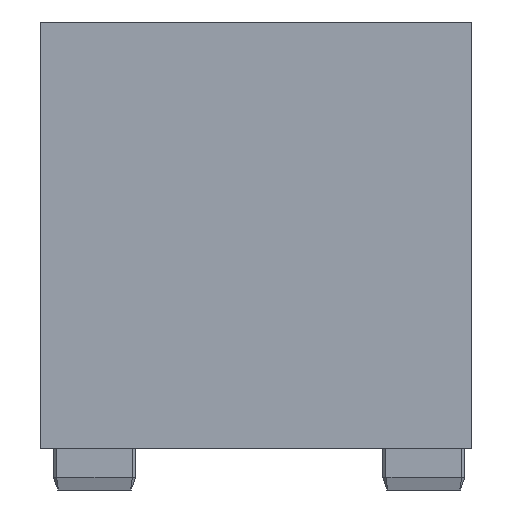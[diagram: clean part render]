
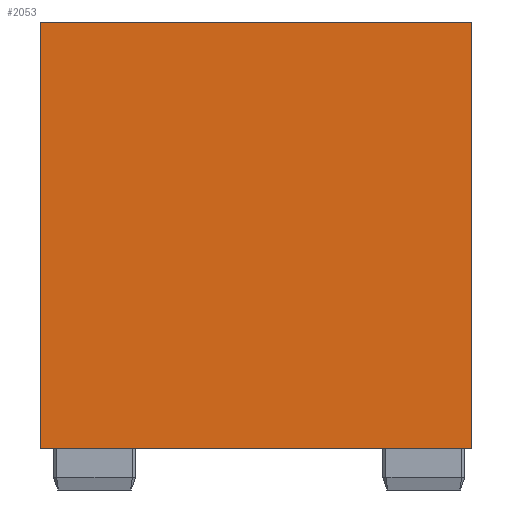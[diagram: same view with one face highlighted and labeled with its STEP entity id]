
A CAD part, left-side view. The second image highlights one B-rep face of the part: STEP entity #2053.
In plain terms, the highlighted planar face has unit normal (-1, 0, 0).
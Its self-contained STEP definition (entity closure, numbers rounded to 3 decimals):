
#143=FACE_OUTER_BOUND('',#265,.T.);
#265=EDGE_LOOP('',(#1775,#1776,#1777,#1778));
#528=LINE('',#3236,#804);
#536=LINE('',#3250,#812);
#545=LINE('',#3267,#821);
#546=LINE('',#3269,#822);
#804=VECTOR('',#2670,10.);
#812=VECTOR('',#2680,10.);
#821=VECTOR('',#2699,10.);
#822=VECTOR('',#2702,10.);
#981=VERTEX_POINT('',#3234);
#982=VERTEX_POINT('',#3235);
#987=VERTEX_POINT('',#3249);
#990=VERTEX_POINT('',#3265);
#1248=EDGE_CURVE('',#981,#982,#528,.T.);
#1256=EDGE_CURVE('',#987,#982,#536,.T.);
#1265=EDGE_CURVE('',#981,#990,#545,.T.);
#1266=EDGE_CURVE('',#987,#990,#546,.T.);
#1775=ORIENTED_EDGE('',*,*,#1265,.T.);
#1776=ORIENTED_EDGE('',*,*,#1266,.F.);
#1777=ORIENTED_EDGE('',*,*,#1256,.T.);
#1778=ORIENTED_EDGE('',*,*,#1248,.F.);
#1935=PLANE('',#2186);
#2053=ADVANCED_FACE('',(#143),#1935,.T.);
#2186=AXIS2_PLACEMENT_3D('',#3268,#2700,#2701);
#2670=DIRECTION('',(0.,-1.,0.));
#2680=DIRECTION('',(0.,0.,1.));
#2699=DIRECTION('',(0.,0.,-1.));
#2700=DIRECTION('center_axis',(-1.,0.,0.));
#2701=DIRECTION('ref_axis',(0.,1.,0.));
#2702=DIRECTION('',(0.,1.,0.));
#3234=CARTESIAN_POINT('',(-104.,103.3,101.));
#3235=CARTESIAN_POINT('',(-104.,0.,101.));
#3236=CARTESIAN_POINT('',(-104.,103.3,101.));
#3249=CARTESIAN_POINT('',(-104.,0.,-1.));
#3250=CARTESIAN_POINT('',(-104.,0.,0.));
#3265=CARTESIAN_POINT('',(-104.,103.3,-1.));
#3267=CARTESIAN_POINT('',(-104.,103.3,0.));
#3268=CARTESIAN_POINT('Origin',(-104.,0.,0.));
#3269=CARTESIAN_POINT('',(-104.,103.3,-1.));
